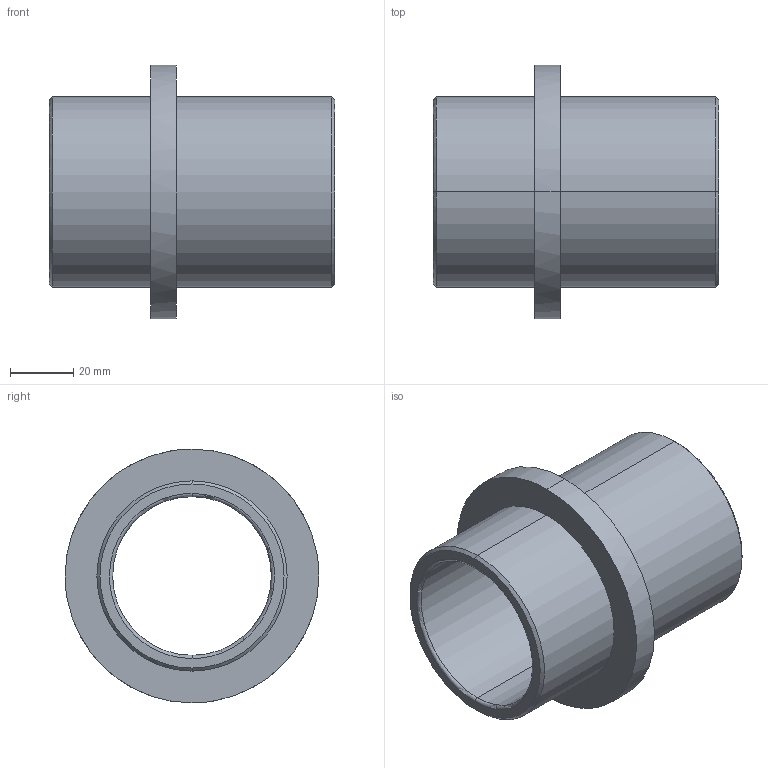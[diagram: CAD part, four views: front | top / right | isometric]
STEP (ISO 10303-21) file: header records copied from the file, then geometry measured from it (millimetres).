
FILE_DESCRIPTION(('CATIA V5 STEP Exchange'),'2;1');
FILE_NAME('C:\Users\Utente\Desktop\IO LAVORO\3D X SITO CF\X SITO\PLASTICA\355\355-50X90.stp','2021-04-21T08:52:15+00:00',('none'),('none'),'CATIA Version 5 Release 20 GA (IN-10)','CATIA V5 STEP AP203','none');
FILE_SCHEMA(('CONFIG_CONTROL_DESIGN'));
Length unit declared in the file: millimetre
Products named in the file (1): 355-50X90
Bounding box: 90 x 80 x 80 mm (x, y, z)
Volume: 95092.9 mm3; surface area: 37373.1 mm2
Topology: 1 solids, 1 shells, 20 faces, 64 edges, 48 vertices
Faces by surface type: cylinder 8, plane 4, cone 4, torus 4
Entity records: 906 total; most frequent: CARTESIAN_POINT 301, ORIENTED_EDGE 128, DIRECTION 92, EDGE_CURVE 64, AXIS2_PLACEMENT_3D 61, VERTEX_POINT 48, CIRCLE 40, EDGE_LOOP 24
